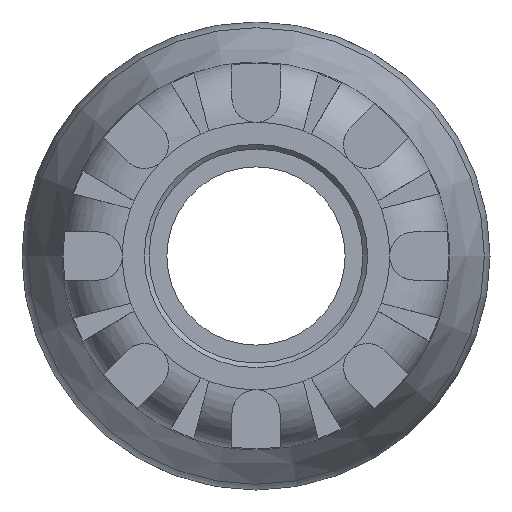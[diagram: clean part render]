
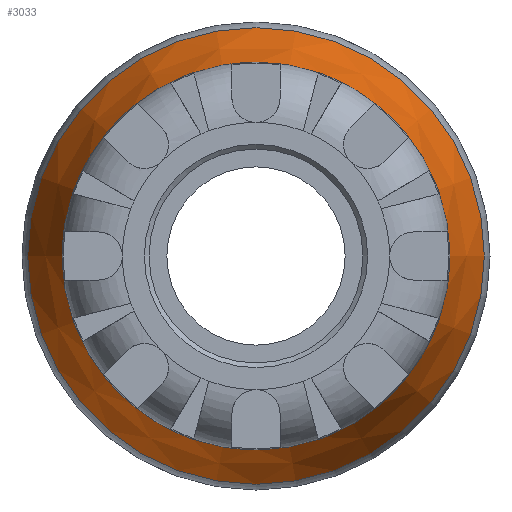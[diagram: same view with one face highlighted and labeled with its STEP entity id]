
A CAD part, left-side view. The second image highlights one B-rep face of the part: STEP entity #3033.
In plain terms, the highlighted conical face has half-angle 20 degrees and reference radius 31.5 mm.
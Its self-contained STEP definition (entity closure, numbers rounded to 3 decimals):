
#331=FACE_OUTER_BOUND('',#508,.T.);
#508=EDGE_LOOP('',(#2147,#2148,#2149,#2150,#2151,#2152,#2153,#2154));
#674=LINE('',#5030,#831);
#831=VECTOR('',#3859,31.5);
#1063=CIRCLE('',#3324,34.156);
#1064=CIRCLE('',#3325,34.156);
#1065=CIRCLE('',#3326,34.156);
#1067=CIRCLE('',#3329,28.844);
#1068=CIRCLE('',#3330,28.844);
#1069=CIRCLE('',#3331,28.844);
#1273=VERTEX_POINT('',#5020);
#1274=VERTEX_POINT('',#5022);
#1275=VERTEX_POINT('',#5024);
#1276=VERTEX_POINT('',#5029);
#1277=VERTEX_POINT('',#5031);
#1278=VERTEX_POINT('',#5033);
#1599=EDGE_CURVE('',#1273,#1274,#1063,.T.);
#1600=EDGE_CURVE('',#1274,#1275,#1064,.T.);
#1601=EDGE_CURVE('',#1275,#1273,#1065,.T.);
#1603=EDGE_CURVE('',#1274,#1276,#674,.T.);
#1604=EDGE_CURVE('',#1277,#1276,#1067,.T.);
#1605=EDGE_CURVE('',#1278,#1277,#1068,.T.);
#1606=EDGE_CURVE('',#1276,#1278,#1069,.T.);
#2147=ORIENTED_EDGE('',*,*,#1601,.F.);
#2148=ORIENTED_EDGE('',*,*,#1600,.F.);
#2149=ORIENTED_EDGE('',*,*,#1603,.T.);
#2150=ORIENTED_EDGE('',*,*,#1604,.F.);
#2151=ORIENTED_EDGE('',*,*,#1605,.F.);
#2152=ORIENTED_EDGE('',*,*,#1606,.F.);
#2153=ORIENTED_EDGE('',*,*,#1603,.F.);
#2154=ORIENTED_EDGE('',*,*,#1599,.F.);
#2858=CONICAL_SURFACE('',#3328,31.5,0.349);
#3033=ADVANCED_FACE('',(#331),#2858,.T.);
#3324=AXIS2_PLACEMENT_3D('',#5023,#3849,#3850);
#3325=AXIS2_PLACEMENT_3D('',#5025,#3851,#3852);
#3326=AXIS2_PLACEMENT_3D('',#5026,#3853,#3854);
#3328=AXIS2_PLACEMENT_3D('',#5028,#3857,#3858);
#3329=AXIS2_PLACEMENT_3D('',#5032,#3860,#3861);
#3330=AXIS2_PLACEMENT_3D('',#5034,#3862,#3863);
#3331=AXIS2_PLACEMENT_3D('',#5035,#3864,#3865);
#3849=DIRECTION('center_axis',(1.,0.,0.));
#3850=DIRECTION('ref_axis',(0.,-1.,0.));
#3851=DIRECTION('center_axis',(1.,0.,0.));
#3852=DIRECTION('ref_axis',(0.,-1.,0.));
#3853=DIRECTION('center_axis',(1.,0.,0.));
#3854=DIRECTION('ref_axis',(0.,-1.,0.));
#3857=DIRECTION('center_axis',(1.,0.,0.));
#3858=DIRECTION('ref_axis',(0.,1.,0.));
#3859=DIRECTION('',(-0.94,0.342,0.));
#3860=DIRECTION('center_axis',(-1.,0.,0.));
#3861=DIRECTION('ref_axis',(0.,-1.,0.));
#3862=DIRECTION('center_axis',(-1.,0.,0.));
#3863=DIRECTION('ref_axis',(0.,-1.,0.));
#3864=DIRECTION('center_axis',(-1.,0.,0.));
#3865=DIRECTION('ref_axis',(0.,-1.,0.));
#5020=CARTESIAN_POINT('',(38.6,0.,34.156));
#5022=CARTESIAN_POINT('',(38.6,-34.156,0.));
#5023=CARTESIAN_POINT('Origin',(38.6,0.,0.));
#5024=CARTESIAN_POINT('',(38.6,34.156,0.));
#5025=CARTESIAN_POINT('Origin',(38.6,0.,0.));
#5026=CARTESIAN_POINT('Origin',(38.6,0.,0.));
#5028=CARTESIAN_POINT('Origin',(31.304,0.,0.));
#5029=CARTESIAN_POINT('',(24.007,-28.844,0.));
#5030=CARTESIAN_POINT('',(31.304,-31.5,0.));
#5031=CARTESIAN_POINT('',(24.007,28.844,0.));
#5032=CARTESIAN_POINT('Origin',(24.007,0.,0.));
#5033=CARTESIAN_POINT('',(24.007,0.,28.844));
#5034=CARTESIAN_POINT('Origin',(24.007,0.,0.));
#5035=CARTESIAN_POINT('Origin',(24.007,0.,0.));
